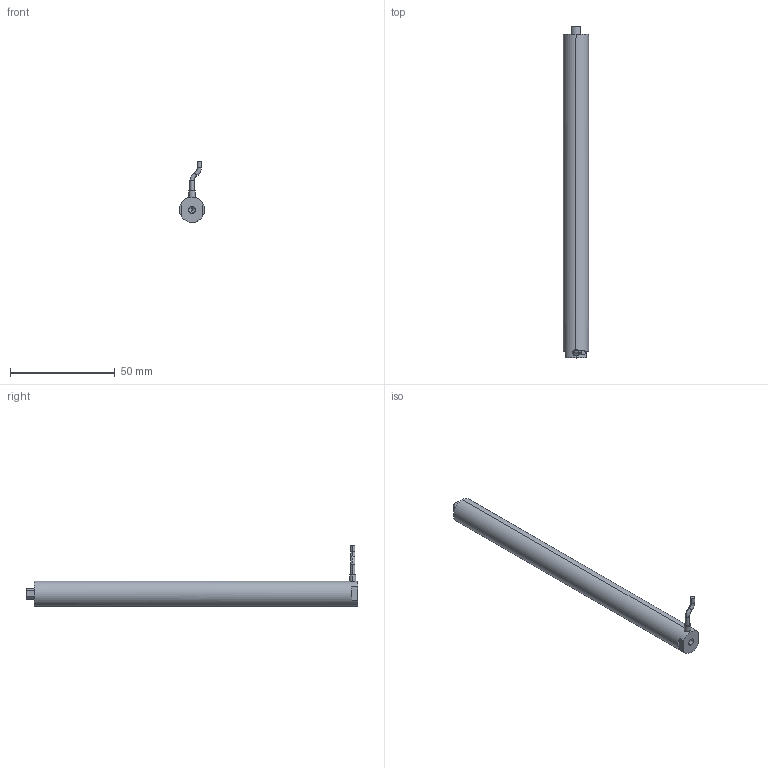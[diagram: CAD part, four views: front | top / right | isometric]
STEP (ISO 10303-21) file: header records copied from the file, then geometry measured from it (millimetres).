
FILE_DESCRIPTION (( 'STEP AP203' ), '1' );
FILE_NAME ('囀蹟恇宒160VS12.STEP', '2020-08-19T06:14:09', ( 'User' ), ( 'china' ), 'SwSTEP 2.0', 'SolidWorks 2016', '' );
FILE_SCHEMA (( 'CONFIG_CONTROL_DESIGN' ));
Length unit declared in the file: millimetre
Products named in the file (1): 囀蹟恇宒160VS12
Bounding box: 12 x 158.6 x 29.08 mm (x, y, z)
Volume: 17514.9 mm3; surface area: 6351.5 mm2
Topology: 1 solids, 1 shells, 943 faces, 2541 edges, 1688 vertices
Faces by surface type: bspline 515, plane 315, cylinder 105, torus 4, cone 4
Entity records: 44735 total; most frequent: CARTESIAN_POINT 25613, ORIENTED_EDGE 5074, EDGE_CURVE 2537, DIRECTION 1979, B_SPLINE_CURVE_WITH_KNOTS 1696, VERTEX_POINT 1688, EDGE_LOOP 1035, ADVANCED_FACE 943
